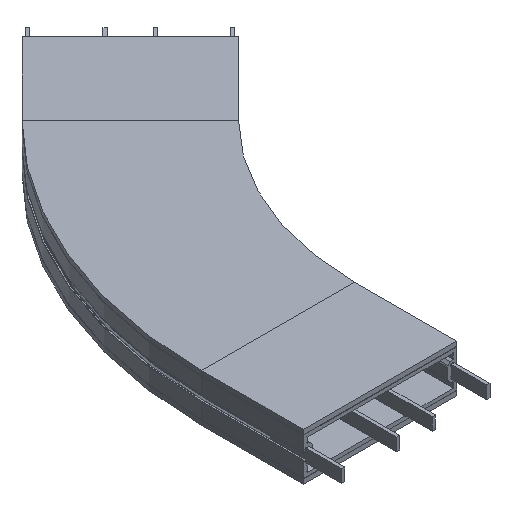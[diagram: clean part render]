
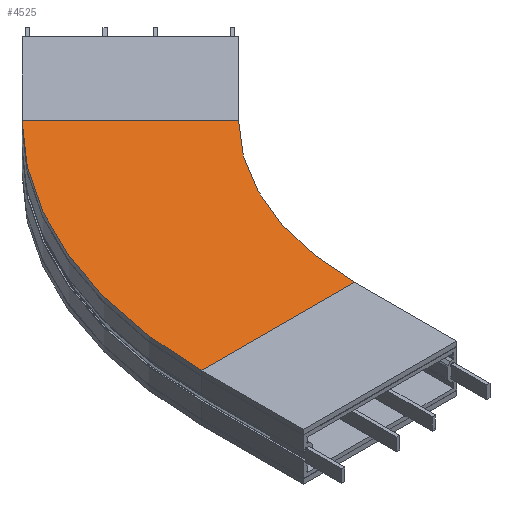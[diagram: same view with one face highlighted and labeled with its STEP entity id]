
A CAD part, isometric view. The second image highlights one B-rep face of the part: STEP entity #4525.
In plain terms, the highlighted planar face has unit normal (0, 0, 1).
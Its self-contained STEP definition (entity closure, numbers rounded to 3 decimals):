
#397 = DIRECTION ( 'NONE',  ( -1., 0., 0. ) ) ;
#626 = DIRECTION ( 'NONE',  ( -0.707, 0.707, 0. ) ) ;
#857 = CARTESIAN_POINT ( 'NONE',  ( -550., 0., 46.5 ) ) ;
#1133 = DIRECTION ( 'NONE',  ( 0., 0., 1. ) ) ;
#1643 = EDGE_CURVE ( 'NONE', #2440, #5222, #5125, .T. ) ;
#2425 = VERTEX_POINT ( 'NONE', #9057 ) ;
#2440 = VERTEX_POINT ( 'NONE', #8180 ) ;
#2677 = FACE_OUTER_BOUND ( 'NONE', #8480, .T. ) ;
#2700 = VECTOR ( 'NONE', #4605, 1000. ) ;
#2724 = LINE ( 'NONE', #4408, #8057 ) ;
#2968 = ORIENTED_EDGE ( 'NONE', *, *, #1643, .F. ) ;
#3979 = EDGE_CURVE ( 'NONE', #2440, #6599, #9378, .T. ) ;
#4357 = EDGE_CURVE ( 'NONE', #6599, #2425, #8306, .T. ) ;
#4408 = CARTESIAN_POINT ( 'NONE',  ( -850., 0., 46.5 ) ) ;
#4525 = ADVANCED_FACE ( 'NONE', ( #2677 ), #6698, .T. ) ;
#4605 = DIRECTION ( 'NONE',  ( -0.707, 0.707, 0. ) ) ;
#4827 = CARTESIAN_POINT ( 'NONE',  ( 0., 0., 46.5 ) ) ;
#4828 = AXIS2_PLACEMENT_3D ( 'NONE', #4827, #5467, #6344 ) ;
#4876 = ORIENTED_EDGE ( 'NONE', *, *, #6631, .F. ) ;
#4987 = DIRECTION ( 'NONE',  ( 1., 0., 0. ) ) ;
#5125 = CIRCLE ( 'NONE', #8601, 550. ) ;
#5220 = DIRECTION ( 'NONE',  ( 0., 0., 1. ) ) ;
#5222 = VERTEX_POINT ( 'NONE', #857 ) ;
#5467 = DIRECTION ( 'NONE',  ( 0., 0., 1. ) ) ;
#5707 = CARTESIAN_POINT ( 'NONE',  ( -601.041, 601.041, 46.5 ) ) ;
#6344 = DIRECTION ( 'NONE',  ( -0.707, 0.707, 0. ) ) ;
#6599 = VERTEX_POINT ( 'NONE', #10144 ) ;
#6631 = EDGE_CURVE ( 'NONE', #5222, #2425, #2724, .T. ) ;
#6698 = PLANE ( 'NONE',  #8808 ) ;
#7545 = CARTESIAN_POINT ( 'NONE',  ( 0., 0., 46.5 ) ) ;
#7779 = ORIENTED_EDGE ( 'NONE', *, *, #4357, .T. ) ;
#8057 = VECTOR ( 'NONE', #397, 1000. ) ;
#8180 = CARTESIAN_POINT ( 'NONE',  ( -388.909, 388.909, 46.5 ) ) ;
#8306 = CIRCLE ( 'NONE', #4828, 850. ) ;
#8480 = EDGE_LOOP ( 'NONE', ( #4876, #2968, #9345, #7779 ) ) ;
#8601 = AXIS2_PLACEMENT_3D ( 'NONE', #7545, #5220, #626 ) ;
#8808 = AXIS2_PLACEMENT_3D ( 'NONE', #5707, #1133, #4987 ) ;
#9057 = CARTESIAN_POINT ( 'NONE',  ( -850., 0., 46.5 ) ) ;
#9345 = ORIENTED_EDGE ( 'NONE', *, *, #3979, .T. ) ;
#9378 = LINE ( 'NONE', #9535, #2700 ) ;
#9535 = CARTESIAN_POINT ( 'NONE',  ( -601.041, 601.041, 46.5 ) ) ;
#10144 = CARTESIAN_POINT ( 'NONE',  ( -601.041, 601.041, 46.5 ) ) ;
